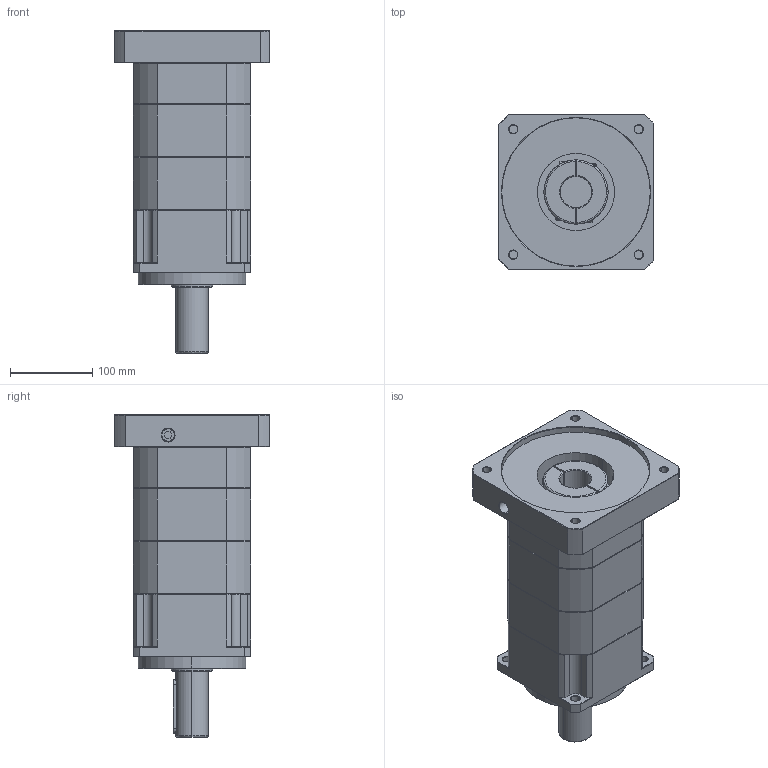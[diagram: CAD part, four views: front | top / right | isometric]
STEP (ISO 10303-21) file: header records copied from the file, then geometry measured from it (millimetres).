
FILE_DESCRIPTION (( 'STEP AP214' ), '1' );
FILE_NAME ('ZPB142-L3-P1-S2-38-180-215-M12.step', '2024-07-05T00:21:41', ( 'Windows 蚚誧' ), ( 'Organization' ), 'SwSTEP 2.0', 'SolidWorks 2016', '' );
FILE_SCHEMA (( 'AUTOMOTIVE_DESIGN' ));
Length unit declared in the file: millimetre
Products named in the file (1): ZPB142-L3-P1-S2-38-180-215-M12
Bounding box: 188 x 188 x 391.5 mm (x, y, z)
Surface area: 309063.7 mm2 (no closed solid volume)
Topology: 0 solids, 37 shells, 1818 faces, 4825 edges, 3082 vertices
Faces by surface type: plane 936, bspline 383, cone 280, cylinder 219
Full cylindrical faces by diameter (mm): 14 x1
Entity records: 101692 total; most frequent: CARTESIAN_POINT 50800, ORIENTED_EDGE 9625, DIRECTION 7423, EDGE_CURVE 4824, VECTOR 3179, LINE 3179, VERTEX_POINT 3082, AXIS2_PLACEMENT_3D 2122
